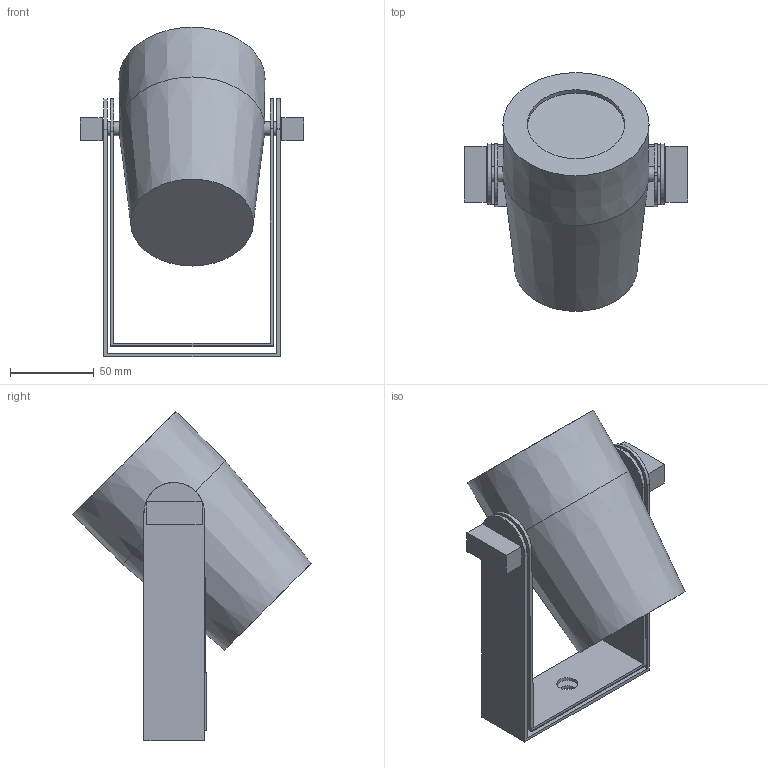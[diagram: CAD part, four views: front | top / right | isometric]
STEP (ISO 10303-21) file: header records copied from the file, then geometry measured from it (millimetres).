
FILE_DESCRIPTION(/* description */ (''),/* implementation_level */ '2;1');
FILE_NAME(/* name */ 'COLORDash Accent 5XIP_45.stp',/* time_stamp */ '2026-07-14T14:50:57-04:00',/* author */ ('chenry'),/* organization */ (''),/* preprocessor_version */ 'ST-DEVELOPER v20',/* originating_system */ 'Autodesk Inventor 2024',/* authorisation */ '');
FILE_SCHEMA (('AUTOMOTIVE_DESIGN { 1 0 10303 214 3 1 1 }'));
Length unit declared in the file: millimetre
Products named in the file (6): CHRUVET-00_ASM; Component129; BRACKET (1); BRACKET; KNOB (1); KNOB
Assembly tree (5 placements, depth 2):
  CHRUVET-00_ASM
    Component129
    BRACKET (1)
    BRACKET
    KNOB (1)
    KNOB
Bounding box: 133.06 x 142.19 x 196.24 mm (x, y, z)
Volume: 709909.6 mm3; surface area: 106480.8 mm2
Topology: 5 solids, 5 shells, 60 faces, 144 edges, 95 vertices
Faces by surface type: plane 40, cylinder 16, cone 4
Full cylindrical faces by diameter (mm): 8.5 x7, 12.5 x2, 58 x1
Entity records: 2061 total; most frequent: CARTESIAN_POINT 351, DIRECTION 318, ORIENTED_EDGE 286, EDGE_CURVE 143, AXIS2_PLACEMENT_3D 107, LINE 104, VECTOR 104, VERTEX_POINT 95
